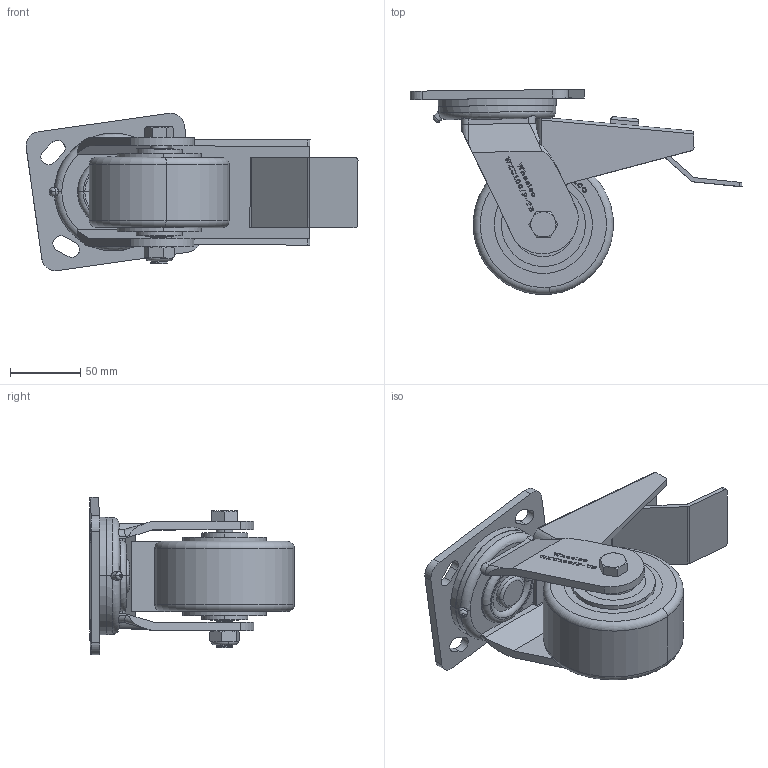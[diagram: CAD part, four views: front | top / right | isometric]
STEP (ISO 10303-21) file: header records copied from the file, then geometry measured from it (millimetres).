
FILE_DESCRIPTION (( 'STEP AP214' ), '1' );
FILE_NAME ('WXU100-P-TB.step', '2024-01-17T23:04:33', ( '' ), ( '' ), 'SwSTEP 2.0', 'SolidWorks 2022', '' );
FILE_SCHEMA (( 'AUTOMOTIVE_DESIGN' ));
Length unit declared in the file: millimetre
Products named in the file (8): SP20-12-62; M12 X 90; WX100-P-TB; WXU100-P-TB; 100X114 PLATE; MXU100; M12NYLOC; SP33X20X3
Assembly tree (8 placements, depth 2):
  WXU100-P-TB
    WX100-P-TB
    M12 X 90
    M12NYLOC
    SP20-12-62
    MXU100
    100X114 PLATE
    SP33X20X3  x2
Bounding box: 236.85 x 146.15 x 112.28 mm (x, y, z)
Volume: 701756.2 mm3; surface area: 150759.6 mm2
Topology: 8 solids, 8 shells, 757 faces, 2031 edges, 1338 vertices
Faces by surface type: plane 414, bspline 162, cylinder 141, torus 24, cone 16
Entity records: 37663 total; most frequent: CARTESIAN_POINT 18755, ORIENTED_EDGE 4038, DIRECTION 2952, EDGE_CURVE 2019, VERTEX_POINT 1330, LINE 1278, VECTOR 1278, AXIS2_PLACEMENT_3D 837
